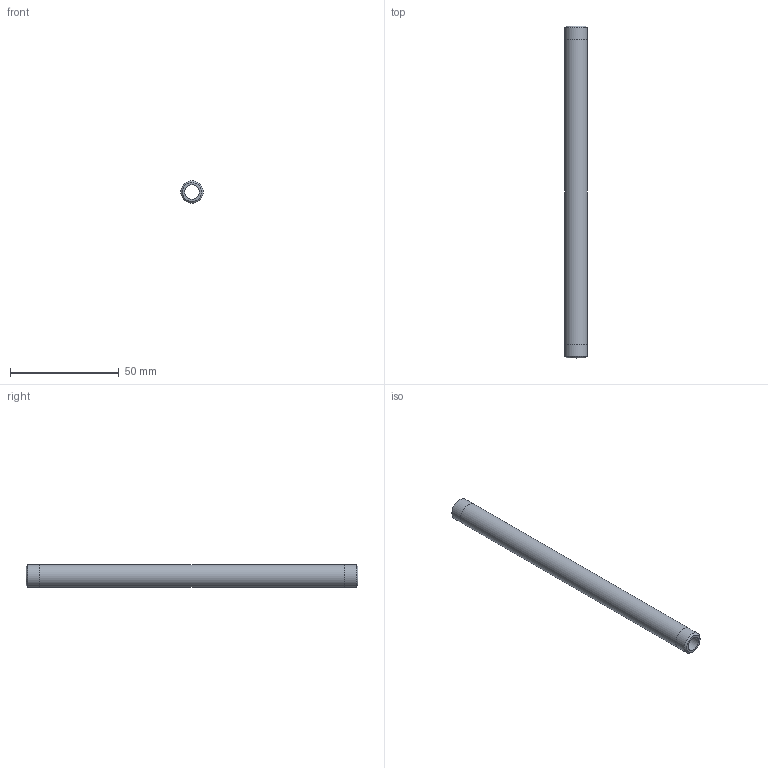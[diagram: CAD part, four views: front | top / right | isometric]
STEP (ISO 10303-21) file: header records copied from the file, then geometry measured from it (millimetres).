
FILE_DESCRIPTION(/* description */ (''),/* implementation_level */ '2;1');
FILE_NAME(/* name */ 'C:/Users/drich/Desktop/BPN18-6 v1.step',/* time_stamp */ '2020-01-03T14:49:13-06:00',/* author */ (''),/* organization */ (''),/* preprocessor_version */ 'ST-DEVELOPER v18',/* originating_system */ 'Autodesk Translation Framework v8.12.0.6',/* authorisation */ '');
FILE_SCHEMA (('AUTOMOTIVE_DESIGN { 1 0 10303 214 3 1 1 }'));
Length unit declared in the file: inch
Products named in the file (1): BPN18-6
Bounding box: 10.31 x 152.4 x 10.31 mm (x, y, z)
Volume: 7112.9 mm3; surface area: 8270.1 mm2
Topology: 1 solids, 1 shells, 10 faces, 24 edges, 18 vertices
Faces by surface type: cylinder 4, plane 4, cone 2
Full cylindrical faces by diameter (mm): 6.833 x1, 10.262 x2, 10.312 x1
Entity records: 360 total; most frequent: DIRECTION 64, CARTESIAN_POINT 53, ORIENTED_EDGE 48, AXIS2_PLACEMENT_3D 29, EDGE_CURVE 24, CIRCLE 18, VERTEX_POINT 18, EDGE_LOOP 14
